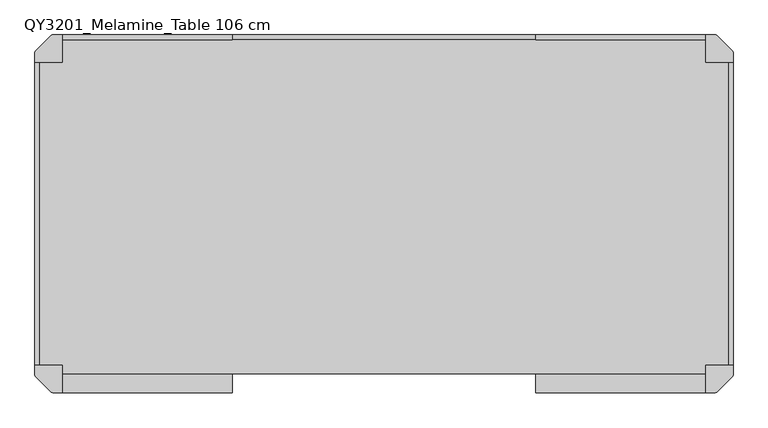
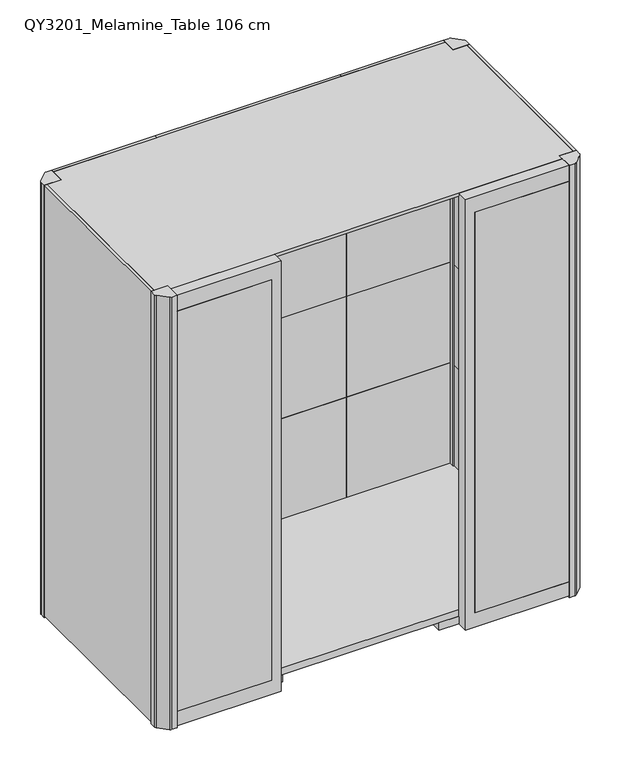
"""IFC4 building model written with IfcOpenShell, lengths in millimetres: furniture geometry, Qyos_200 : QY3201_Melamine_Table 106 cm."""

from ifc_helpers import new_model, si_unit, point, frame, frame_2d, origin, origin_with_axes, place, context, project, spatial, polyline, circle_curve, trimmed, segment, composite_curve, outline, extrude, source, transform, mapped, element, save
from ifc_brep_helpers import plane_surface, cylinder_surface, advanced_brep


def qy3201_melamine_table_106_cm_8b98e1d3(model_context):
    return source(origin(), model_context, "Body", "SolidModel", [
        advanced_brep(
        [(853.8585356, 382.0, 0.0), (900.1414644, 382.0, 0.0), (877.0, 382.0, 0.0), (853.8585356, 382.0, 7.0), (900.1414644, 382.0, 7.0), (867.3615446, 382.0, 7.0), (886.6384554, 382.0, 7.0), (867.3615446, 382.0, 17.0), (886.6384554, 382.0, 17.0), (877.0, 382.0, 17.0)],
        [
            (0, 1, circle_curve(frame((877.0, 382.0, 0.0), z_axis=(0.0, 0.0, -1.0), x_axis=(1.0, 0.0, 0.0)), 23.1414644)),
            (1, 2),
            (2, 0),
            (1, 0, circle_curve(frame((877.0, 382.0, 0.0), z_axis=(0.0, 0.0, -1.0), x_axis=(1.0, 0.0, 0.0)), 23.1414644)),
            (3, 4, circle_curve(frame((877.0, 382.0, 7.0), z_axis=(0.0, 0.0, -1.0), x_axis=(1.0, 0.0, 0.0)), 23.1414644)),
            (4, 1),
            (0, 3),
            (4, 3, circle_curve(frame((877.0, 382.0, 7.0), z_axis=(0.0, 0.0, -1.0), x_axis=(1.0, 0.0, 0.0)), 23.1414644)),
            (5, 6, circle_curve(frame((877.0, 382.0, 7.0), z_axis=(0.0, 0.0, -1.0), x_axis=(1.0, 0.0, 0.0)), 9.6384554)),
            (6, 4),
            (3, 5),
            (6, 5, circle_curve(frame((877.0, 382.0, 7.0), z_axis=(0.0, 0.0, -1.0), x_axis=(1.0, 0.0, 0.0)), 9.6384554)),
            (7, 8, circle_curve(frame((877.0, 382.0, 17.0), z_axis=(0.0, 0.0, -1.0), x_axis=(1.0, 0.0, 0.0)), 9.6384554)),
            (8, 6),
            (5, 7),
            (8, 7, circle_curve(frame((877.0, 382.0, 17.0), z_axis=(0.0, 0.0, -1.0), x_axis=(1.0, 0.0, 0.0)), 9.6384554)),
            (9, 8),
            (7, 9),
        ],
        [
            plane_surface(frame((877.0, 382.0, 0.0), z_axis=(0.0, 0.0, -1.0), x_axis=(1.0, 0.0, 0.0))),
            cylinder_surface(frame((877.0, 382.0, 1997.4144888), z_axis=(0.0, 0.0, 1.0), x_axis=(1.0, 0.0, 0.0)), 23.1414644),
            plane_surface(frame((877.0, 382.0, 7.0), z_axis=(0.0, 0.0, 1.0), x_axis=(1.0, 0.0, 0.0))),
            cylinder_surface(frame((877.0, 382.0, 1997.4144888), z_axis=(0.0, 0.0, 1.0), x_axis=(1.0, 0.0, 0.0)), 9.6384554),
            plane_surface(frame((877.0, 382.0, 17.0), z_axis=(0.0, 0.0, 1.0), x_axis=(1.0, 0.0, 0.0))),
        ],
        [
            (0, [[1, 2, 3]]),
            (0, [[4, -3, -2]]),
            (1, [[5, 6, -1, 7]]),
            (1, [[8, -7, -4, -6]]),
            (2, [[9, 10, -5, 11]]),
            (2, [[12, -11, -8, -10]]),
            (3, [[13, 14, -9, 15]]),
            (3, [[16, -15, -12, -14]]),
            (4, [[17, -13, 18]]),
            (4, [[-18, -16, -17]]),
        ],
    ),
        extrude(outline(composite_curve([segment(trimmed(circle_curve(frame_2d((877.0, 382.0)), 23.1414644), [point((853.8585356, 382.0))], [point((900.1414644, 382.0))], False, "CARTESIAN"), True, "CONTINUOUS"), segment(trimmed(circle_curve(frame_2d((877.0, 382.0)), 23.1414644), [point((900.1414644, 382.0))], [point((853.8585356, 382.0))], False, "CARTESIAN"), True, "CONTINUOUS")], self_intersect=False)), origin_with_axes(), (0.0, 0.0, 1.0), 7.0),
        extrude(outline(composite_curve([segment(polyline([(-945.0, 445.0), (-1025.0, 445.0), (-1025.0, 472.5536246)]), True, "CONTINUOUS"), segment(trimmed(circle_curve(frame_2d((-1013.0024364, 472.3118252)), 12.0), [point((-1025.0, 472.5536246))], [point((-1021.7960176, 480.4771745))], False, "CARTESIAN"), True, "CONTINUOUS"), segment(trimmed(circle_curve(frame_2d((-443.4303831, -56.568803)), 789.2560985), [point((-1021.7960176, 480.4771745))], [point((-980.4763607, 521.7968315))], False, "CARTESIAN"), True, "CONTINUOUS"), segment(trimmed(circle_curve(frame_2d((-972.3110114, 513.0032502)), 12.0), [point((-980.4763607, 521.7968315))], [point((-972.5902872, 525.0))], False, "CARTESIAN"), True, "CONTINUOUS"), segment(polyline([(-972.5902872, 525.0), (-945.0, 525.0), (-945.0, 445.0)]), True, "CONTINUOUS")], self_intersect=False)), origin_with_axes(), (0.0, 0.0, 1.0), 2202.1),
        extrude(outline(composite_curve([segment(polyline([(945.0, 445.0), (945.0, 525.0), (972.5536246, 525.0)]), True, "CONTINUOUS"), segment(trimmed(circle_curve(frame_2d((972.3118252, 513.0024364)), 12.0), [point((972.5536246, 525.0))], [point((980.4771745, 521.7960176))], False, "CARTESIAN"), True, "CONTINUOUS"), segment(trimmed(circle_curve(frame_2d((443.431197, -56.5696169)), 789.2560985), [point((980.4771745, 521.7960176))], [point((1021.7968315, 480.4763607))], False, "CARTESIAN"), True, "CONTINUOUS"), segment(trimmed(circle_curve(frame_2d((1013.0032502, 472.3110114)), 12.0), [point((1021.7968315, 480.4763607))], [point((1025.0, 472.5902872))], False, "CARTESIAN"), True, "CONTINUOUS"), segment(polyline([(1025.0, 472.5902872), (1025.0, 445.0), (945.0, 445.0)]), True, "CONTINUOUS")], self_intersect=False)), origin_with_axes(), (0.0, 0.0, 1.0), 2202.1),
        extrude(outline(composite_curve([segment(polyline([(945.0, -445.0), (1025.0, -445.0), (1025.0, -472.5536246)]), True, "CONTINUOUS"), segment(trimmed(circle_curve(frame_2d((1013.0024364, -472.3118252)), 12.0), [point((1025.0, -472.5536246))], [point((1021.7960176, -480.4771745))], False, "CARTESIAN"), True, "CONTINUOUS"), segment(trimmed(circle_curve(frame_2d((443.4303831, 56.568803)), 789.2560985), [point((1021.7960176, -480.4771745))], [point((980.4763607, -521.7968315))], False, "CARTESIAN"), True, "CONTINUOUS"), segment(trimmed(circle_curve(frame_2d((972.3110114, -513.0032502)), 12.0), [point((980.4763607, -521.7968315))], [point((972.5902872, -525.0))], False, "CARTESIAN"), True, "CONTINUOUS"), segment(polyline([(972.5902872, -525.0), (945.0, -525.0), (945.0, -445.0)]), True, "CONTINUOUS")], self_intersect=False)), origin_with_axes(), (0.0, 0.0, 1.0), 2202.1),
        extrude(outline(composite_curve([segment(polyline([(-945.0, -445.0), (-945.0, -525.0), (-972.5536246, -525.0)]), True, "CONTINUOUS"), segment(trimmed(circle_curve(frame_2d((-972.3118252, -513.0024364)), 12.0), [point((-972.5536246, -525.0))], [point((-980.4771745, -521.7960176))], False, "CARTESIAN"), True, "CONTINUOUS"), segment(trimmed(circle_curve(frame_2d((-443.431197, 56.5696169)), 789.2560985), [point((-980.4771745, -521.7960176))], [point((-1021.7968315, -480.4763607))], False, "CARTESIAN"), True, "CONTINUOUS"), segment(trimmed(circle_curve(frame_2d((-1013.0032502, -472.3110114)), 12.0), [point((-1021.7968315, -480.4763607))], [point((-1025.0, -472.5902872))], False, "CARTESIAN"), True, "CONTINUOUS"), segment(polyline([(-1025.0, -472.5902872), (-1025.0, -445.0), (-945.0, -445.0)]), True, "CONTINUOUS")], self_intersect=False)), origin_with_axes(), (0.0, 0.0, 1.0), 2202.1),
        extrude(outline(polyline([(-945.0, 470.0), (-945.0, 489.0), (-445.0, 489.0), (-445.0, 470.0), (-945.0, 470.0)])), frame((0.0, 0.0, 1617.9823403), z_axis=(0.0, 0.0, 1.0), x_axis=(1.0, 0.0, 0.0)), (0.0, 0.0, 1.0), 504.1176597),
        extrude(outline(polyline([(445.0557256, 489.0), (945.0, 489.0), (945.0, 470.0), (445.0557256, 470.0), (445.0557256, 489.0)])), frame((0.0, 0.0, 1617.9823403), z_axis=(0.0, 0.0, 1.0), x_axis=(1.0, 0.0, 0.0)), (0.0, 0.0, 1.0), 504.1176597),
        extrude(outline(polyline([(-945.0, 470.0), (-945.0, 489.0), (-445.0, 489.0), (-445.0, 470.0), (-945.0, 470.0)])), frame((0.0, 0.0, 1106.0116287), z_axis=(0.0, 0.0, 1.0), x_axis=(1.0, 0.0, 0.0)), (0.0, 0.0, 1.0), 511.9707116),
        extrude(outline(polyline([(445.0557256, 489.0), (945.0, 489.0), (945.0, 470.0), (445.0557256, 470.0), (445.0557256, 489.0)])), frame((0.0, 0.0, 1106.0116287), z_axis=(0.0, 0.0, 1.0), x_axis=(1.0, 0.0, 0.0)), (0.0, 0.0, 1.0), 511.9707116),
        extrude(outline(polyline([(-945.0, 470.0), (-945.0, 489.0), (-445.0, 489.0), (-445.0, 470.0), (-945.0, 470.0)])), frame((0.0, 0.0, 593.9823403), z_axis=(0.0, 0.0, 1.0), x_axis=(1.0, 0.0, 0.0)), (0.0, 0.0, 1.0), 512.0292884),
        extrude(outline(polyline([(445.0557256, 489.0), (945.0, 489.0), (945.0, 470.0), (445.0557256, 470.0), (445.0557256, 489.0)])), frame((0.0, 0.0, 593.9823403), z_axis=(0.0, 0.0, 1.0), x_axis=(1.0, 0.0, 0.0)), (0.0, 0.0, 1.0), 512.0292884),
        extrude(outline(polyline([(-945.0, 470.0), (-945.0, 489.0), (-445.0, 489.0), (-445.0, 470.0), (-945.0, 470.0)])), frame((0.0, 0.0, 77.0), z_axis=(0.0, 0.0, 1.0), x_axis=(1.0, 0.0, 0.0)), (0.0, 0.0, 1.0), 516.9823403),
        extrude(outline(polyline([(445.0557256, 489.0), (945.0, 489.0), (945.0, 470.0), (445.0557256, 470.0), (445.0557256, 489.0)])), frame((0.0, 0.0, 77.0), z_axis=(0.0, 0.0, 1.0), x_axis=(1.0, 0.0, 0.0)), (0.0, 0.0, 1.0), 516.9823403),
        extrude(outline(polyline([(-445.0, 511.0), (-945.0, 511.0), (-945.0, 525.0), (-445.0, 525.0), (-445.0, 511.0)])), origin_with_axes(), (0.0, 0.0, 1.0), 2202.1),
        extrude(outline(polyline([(945.0, 525.0), (945.0, 511.0), (445.0557256, 511.0), (445.0557256, 525.0), (945.0, 525.0)])), origin_with_axes(), (0.0, 0.0, 1.0), 2202.1),
        extrude(outline(polyline([(-445.0, 511.0), (445.0, 511.0), (945.0, 511.0), (945.0, 445.0), (1011.0, 445.0), (1011.0, -445.0), (945.0, -445.0), (945.0, -469.9956819), (-945.0, -469.9956819), (-945.0, -445.0), (-1011.0, -445.0), (-1011.0, 445.0), (-945.0, 445.0), (-945.0, 511.0), (-445.0, 511.0)])), frame((0.0, 0.0, 2186.1), z_axis=(0.0, 0.0, 1.0), x_axis=(1.0, 0.0, 0.0)), (0.0, 0.0, 1.0), 16.0),
        extrude(outline(polyline([(-490.0089845, -525.0), (-945.0, -525.0), (-945.0, -520.0), (-490.0089845, -520.0), (-490.0089845, -525.0)])), frame((0.0, 0.0, 82.0), z_axis=(0.0, 0.0, 1.0), x_axis=(1.0, 0.0, 0.0)), (0.0, 0.0, 1.0), 2040.1),
        extrude(outline(polyline([(945.0, -525.0), (490.0089845, -525.0), (490.0089845, -520.0), (945.0, -520.0), (945.0, -525.0)])), frame((0.0, 0.0, 82.0), z_axis=(0.0, 0.0, 1.0), x_axis=(1.0, 0.0, 0.0)), (0.0, 0.0, 1.0), 2040.1),
        extrude(outline(polyline([(-857.0, -469.9956819), (-897.0, -469.9956819), (-897.0, 470.0), (-857.0, 470.0), (-857.0, -469.9956819)])), frame((0.0, 0.0, 10.0), z_axis=(0.0, 0.0, 1.0), x_axis=(1.0, 0.0, 0.0)), (0.0, 0.0, 1.0), 37.0),
        extrude(outline(polyline([(-405.0, -469.9956819), (-445.0, -469.9956819), (-445.0, 470.0), (-405.0, 470.0), (-405.0, -469.9956819)])), frame((0.0, 0.0, 10.0), z_axis=(0.0, 0.0, 1.0), x_axis=(1.0, 0.0, 0.0)), (0.0, 0.0, 1.0), 37.0),
        extrude(outline(polyline([(897.0, -469.9956819), (857.0, -469.9956819), (857.0, 470.0), (897.0, 470.0), (897.0, -469.9956819)])), frame((0.0, 0.0, 10.0), z_axis=(0.0, 0.0, 1.0), x_axis=(1.0, 0.0, 0.0)), (0.0, 0.0, 1.0), 37.0),
        extrude(outline(polyline([(349.5486306, 470.0), (445.0557256, 470.0), (445.0557256, -469.9956819), (349.5486306, -469.9956819), (349.5486306, 470.0)])), frame((0.0, 0.0, 10.0), z_axis=(0.0, 0.0, 1.0), x_axis=(1.0, 0.0, 0.0)), (0.0, 0.0, 1.0), 37.0),
        extrude(outline(polyline([(2122.1, -490.0089845), (82.0, -490.0089845), (82.0, -945.0), (10.0, -945.0), (10.0, -445.0), (2202.1, -445.0), (2202.1, -945.0), (2122.1, -945.0), (2122.1, -490.0089845)])), frame((0.0, -525.0, 0.0), z_axis=(0.0, 1.0, 0.0), x_axis=(0.0, 0.0, 1.0)), (0.0, 0.0, 1.0), 55.0043181),
        extrude(outline(polyline([(2122.1, 490.0089845), (2122.1, 945.0), (2202.1, 945.0), (2202.1, 445.0), (10.0, 445.0), (10.0, 945.0), (82.0, 945.0), (82.0, 490.0089845), (2122.1, 490.0089845)])), frame((0.0, -525.0, 0.0), z_axis=(0.0, 1.0, 0.0), x_axis=(0.0, 0.0, 1.0)), (0.0, 0.0, 1.0), 55.0043181),
        extrude(outline(polyline([(-951.0, 445.0), (-945.0, 445.0), (-945.0, 470.0), (945.0, 470.0), (945.0, 445.0), (951.0, 445.0), (951.0, -445.0), (945.0, -445.0), (945.0, -469.9956819), (-945.0, -469.9956819), (-945.0, -445.0), (-951.0, -445.0), (-951.0, 445.0)])), frame((0.0, 0.0, 47.0), z_axis=(0.0, 0.0, 1.0), x_axis=(1.0, 0.0, 0.0)), (0.0, 0.0, 1.0), 35.0),
        extrude(outline(polyline([(970.0, -444.9498873), (951.0, -444.9498873), (951.0, 445.0024364), (970.0, 445.0024364), (970.0, -444.9498873)])), frame((0.0, 0.0, 1617.9823403), z_axis=(0.0, 0.0, 1.0), x_axis=(1.0, 0.0, 0.0)), (0.0, 0.0, 1.0), 504.1176597),
        extrude(outline(polyline([(-970.0, -445.0), (-970.0, 445.0), (-951.0, 445.0), (-951.0, -445.0), (-970.0, -445.0)])), frame((0.0, 0.0, 1617.9823403), z_axis=(0.0, 0.0, 1.0), x_axis=(1.0, 0.0, 0.0)), (0.0, 0.0, 1.0), 504.1176597),
        extrude(outline(polyline([(-445.0, 470.0), (-445.0, 489.0), (445.0557256, 489.0), (445.0557256, 470.0), (-445.0, 470.0)])), frame((0.0, 0.0, 1617.9823403), z_axis=(0.0, 0.0, 1.0), x_axis=(1.0, 0.0, 0.0)), (0.0, 0.0, 1.0), 504.1176597),
        extrude(outline(polyline([(970.0, -445.0), (951.0, -445.0), (951.0, 445.0), (970.0, 445.0), (970.0, -445.0)])), frame((0.0, 0.0, 1106.0116287), z_axis=(0.0, 0.0, 1.0), x_axis=(1.0, 0.0, 0.0)), (0.0, 0.0, 1.0), 511.9707116),
        extrude(outline(polyline([(-970.0, -445.0), (-970.0, 445.0), (-951.0, 445.0), (-951.0, -445.0), (-970.0, -445.0)])), frame((0.0, 0.0, 1106.0116287), z_axis=(0.0, 0.0, 1.0), x_axis=(1.0, 0.0, 0.0)), (0.0, 0.0, 1.0), 511.9707116),
        extrude(outline(polyline([(-445.0, 470.0), (-445.0, 489.0), (445.0557256, 489.0), (445.0557256, 470.0), (-445.0, 470.0)])), frame((0.0, 0.0, 1106.0116287), z_axis=(0.0, 0.0, 1.0), x_axis=(1.0, 0.0, 0.0)), (0.0, 0.0, 1.0), 511.9707116),
        extrude(outline(polyline([(970.0, -445.0), (951.0, -445.0), (951.0, 445.0), (970.0, 445.0), (970.0, -445.0)])), frame((0.0, 0.0, 593.9823403), z_axis=(0.0, 0.0, 1.0), x_axis=(1.0, 0.0, 0.0)), (0.0, 0.0, 1.0), 512.0292884),
        extrude(outline(polyline([(-970.0, -445.0), (-970.0, 445.0), (-951.0, 445.0), (-951.0, -445.0), (-970.0, -445.0)])), frame((0.0, 0.0, 593.9823403), z_axis=(0.0, 0.0, 1.0), x_axis=(1.0, 0.0, 0.0)), (0.0, 0.0, 1.0), 512.0292884),
        extrude(outline(polyline([(-445.0, 470.0), (-445.0, 489.0), (445.0557256, 489.0), (445.0557256, 470.0), (-445.0, 470.0)])), frame((0.0, 0.0, 593.9823403), z_axis=(0.0, 0.0, 1.0), x_axis=(1.0, 0.0, 0.0)), (0.0, 0.0, 1.0), 512.0292884),
        extrude(outline(polyline([(970.0, -445.0), (951.0, -445.0), (951.0, 445.0), (970.0, 445.0), (970.0, -445.0)])), frame((0.0, 0.0, 77.0), z_axis=(0.0, 0.0, 1.0), x_axis=(1.0, 0.0, 0.0)), (0.0, 0.0, 1.0), 516.9823403),
        extrude(outline(polyline([(-970.0, -445.0), (-970.0, 445.0), (-951.0, 445.0), (-951.0, -445.0), (-970.0, -445.0)])), frame((0.0, 0.0, 77.0), z_axis=(0.0, 0.0, 1.0), x_axis=(1.0, 0.0, 0.0)), (0.0, 0.0, 1.0), 516.9823403),
        extrude(outline(polyline([(-445.0, 470.0), (-445.0, 489.0), (445.0557256, 489.0), (445.0557256, 470.0), (-445.0, 470.0)])), frame((0.0, 0.0, 77.0), z_axis=(0.0, 0.0, 1.0), x_axis=(1.0, 0.0, 0.0)), (0.0, 0.0, 1.0), 516.9823403),
        extrude(outline(polyline([(-1025.0, -445.0), (-1025.0, 445.0), (-1011.0, 445.0), (-1011.0, -445.0), (-1025.0, -445.0)])), frame((0.0, 0.0, 10.0), z_axis=(0.0, 0.0, 1.0), x_axis=(1.0, 0.0, 0.0)), (0.0, 0.0, 1.0), 2192.1),
        extrude(outline(polyline([(1025.0, -445.0), (1011.0, -445.0), (1011.0, 445.0), (1025.0, 445.0), (1025.0, -445.0)])), frame((0.0, 0.0, 10.0), z_axis=(0.0, 0.0, 1.0), x_axis=(1.0, 0.0, 0.0)), (0.0, 0.0, 1.0), 2192.1),
        extrude(outline(polyline([(445.0557256, 525.0), (445.0557256, 511.0), (-445.0, 511.0), (-445.0, 525.0), (445.0557256, 525.0)])), frame((0.0, 0.0, 10.0), z_axis=(0.0, 0.0, 1.0), x_axis=(1.0, 0.0, 0.0)), (0.0, 0.0, 1.0), 2192.1),
    ])


if __name__ == "__main__":
    model = new_model("IFC4")
    model_context = context("Model", 3, world=origin())
    ifc_project = project(units=[si_unit("LENGTHUNIT", "METRE", prefix="MILLI")], contexts=[model_context])
    site = spatial("IfcSite", under=ifc_project)
    building = spatial("IfcBuilding", under=site)
    placement = place(None, origin())
    qy3201_melamine_table_106_cm_shape = qy3201_melamine_table_106_cm_8b98e1d3(model_context)
    element("IfcFurniture", 1, ObjectType="Qyos_200 : QY3201_Melamine_Table 106 cm", at=placement, inside=building, context=model_context, shape_type="MappedRepresentation", body=[
        mapped(qy3201_melamine_table_106_cm_shape, transform((0.0, 0.0, 0.0), x_axis=(1.0, 0.0, 0.0), y_axis=(0.0, 1.0, 0.0), z_axis=(0.0, 0.0, 1.0))),
    ])
    save(model, "model.ifc")
